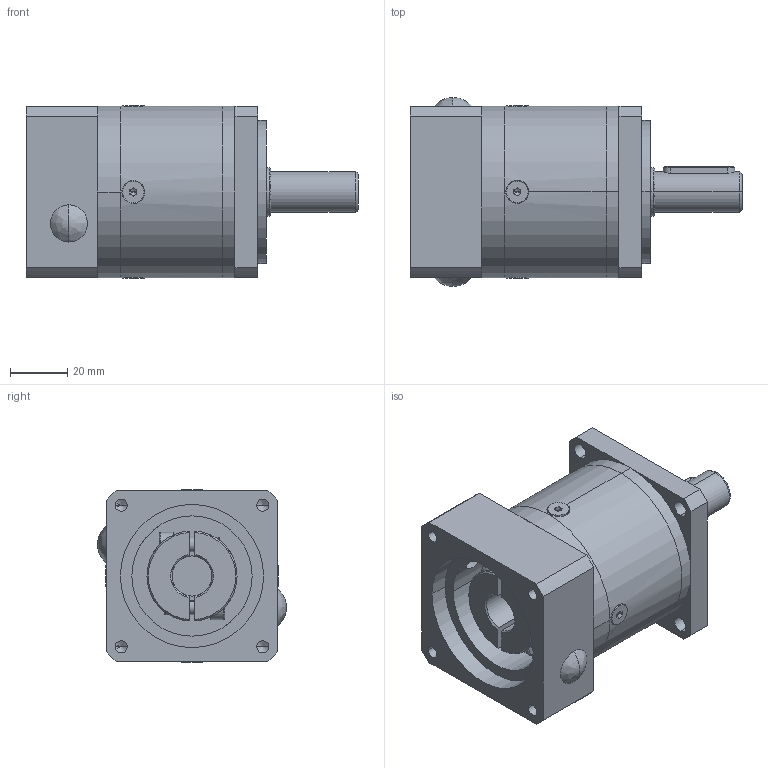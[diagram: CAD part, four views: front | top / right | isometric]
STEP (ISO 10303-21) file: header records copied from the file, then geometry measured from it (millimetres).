
FILE_DESCRIPTION (( 'STEP AP214' ), '1' );
FILE_NAME ('PLF-060-L1-S2-P2 14-50-70-M5.STEP', '2023-08-16T05:41:49', ( '微软用户' ), ( '微软中国' ), 'SwSTEP 2.0', 'SolidWorks 2018', '' );
FILE_SCHEMA (( 'AUTOMOTIVE_DESIGN' ));
Length unit declared in the file: millimetre
Products named in the file (8): PLF-060-L1-S2-P2 14-50-70-M5; hexagon socket head cap screws gb_GB_FASTENER_SCREWS_HSHCS M5X16-N; PLF-060薊粣ん-俋倛14; PLF-060一级内齿圈-外形; PLF-060输入端盖-外形50-M5-70; PLF-060怀堤傷裔-俋倛; hexagon socket countersunk head screws gb_GB_FASTENER_SCREWS_HSCHS M4X8-N; PLF-060黑裔9
Assembly tree (12 placements, depth 2):
  PLF-060-L1-S2-P2 14-50-70-M5
    PLF-060怀堤傷裔-俋倛
    PLF-060一级内齿圈-外形
    PLF-060输入端盖-外形50-M5-70
    PLF-060薊粣ん-俋倛14
    hexagon socket head cap screws gb_GB_FASTENER_SCREWS_HSHCS M5X16-N  x2
    PLF-060黑裔9  x2
    hexagon socket countersunk head screws gb_GB_FASTENER_SCREWS_HSCHS M4X8-N  x4
Bounding box: 116 x 66 x 60.36 mm (x, y, z)
Volume: 164084.6 mm3; surface area: 54420.8 mm2
Topology: 14 solids, 14 shells, 386 faces, 920 edges, 557 vertices
Faces by surface type: plane 157, cylinder 132, cone 65, bspline 32
Entity records: 8905 total; most frequent: CARTESIAN_POINT 2475, DIRECTION 1323, ORIENTED_EDGE 1228, EDGE_CURVE 614, AXIS2_PLACEMENT_3D 523, VERTEX_POINT 388, EDGE_LOOP 304, VECTOR 277
